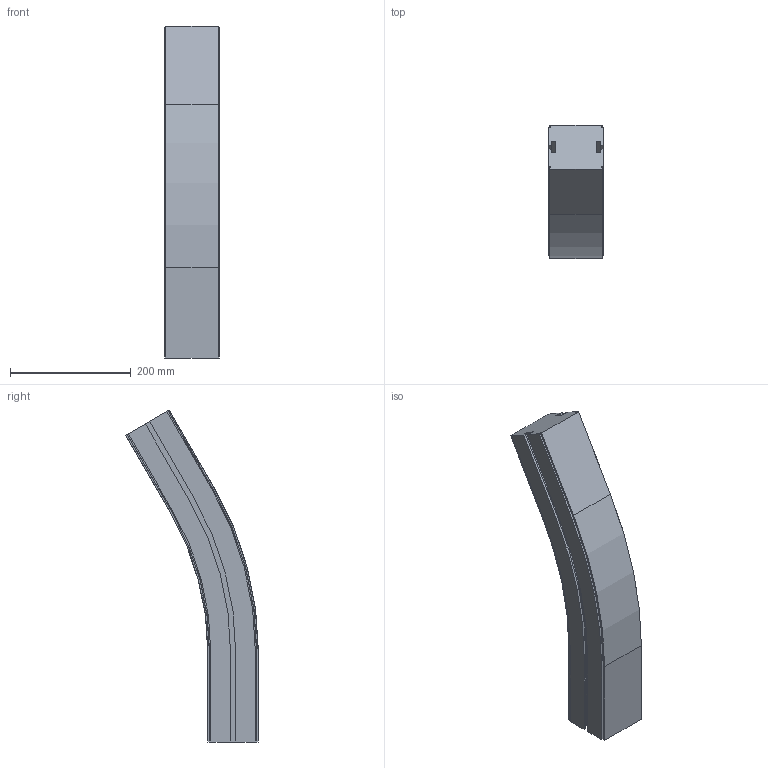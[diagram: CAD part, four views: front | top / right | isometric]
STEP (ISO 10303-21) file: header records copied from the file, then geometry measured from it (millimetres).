
FILE_DESCRIPTION (( 'STEP AP214' ), '1' );
FILE_NAME ('927762 CS090SL Verticale bochtsectie R500 30°.STEP', '2014-03-20T15:13:47', ( 'Beheerder' ), ( '' ), 'SwSTEP 2.0', 'SolidWorks 2012', '' );
FILE_SCHEMA (( 'AUTOMOTIVE_DESIGN' ));
Length unit declared in the file: millimetre
Products named in the file (1): 927762 CS090SL Verticale bochtsectie R500 30°
Bounding box: 90 x 220.36 x 550.9 mm (x, y, z)
Volume: 4019466.8 mm3; surface area: 269343.6 mm2
Topology: 1 solids, 1 shells, 98 faces, 272 edges, 176 vertices
Faces by surface type: plane 72, cylinder 18, cone 8
Entity records: 3126 total; most frequent: CARTESIAN_POINT 547, ORIENTED_EDGE 544, DIRECTION 514, EDGE_CURVE 272, VECTOR 228, LINE 228, VERTEX_POINT 176, AXIS2_PLACEMENT_3D 143
